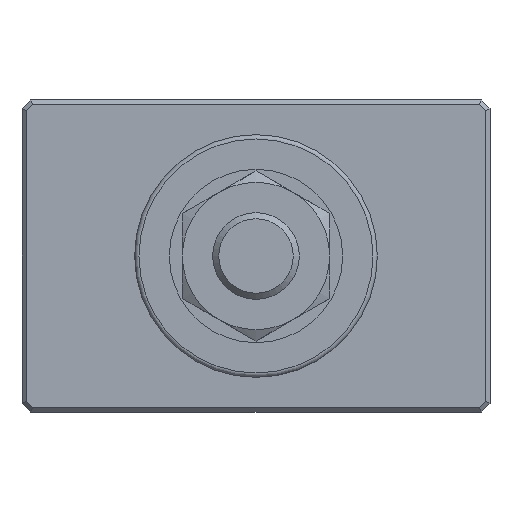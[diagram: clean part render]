
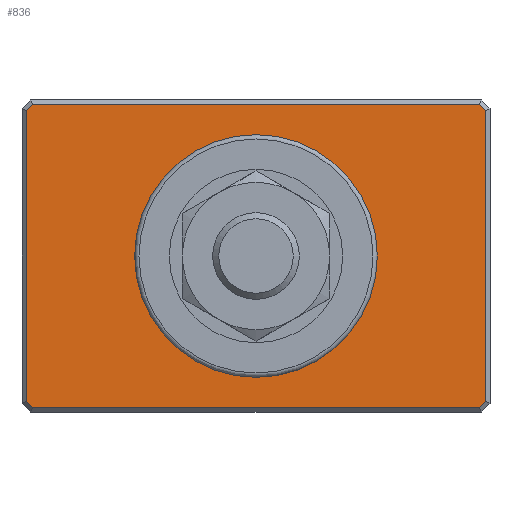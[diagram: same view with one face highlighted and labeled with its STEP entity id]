
A CAD part, front view. The second image highlights one B-rep face of the part: STEP entity #836.
In plain terms, the highlighted planar face has unit normal (0, -1, 0).
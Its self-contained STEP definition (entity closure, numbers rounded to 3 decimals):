
#524=CARTESIAN_POINT('',(25.793,-17.,17.5));
#525=VERTEX_POINT('',#524);
#526=CARTESIAN_POINT('',(26.5,-17.,16.793));
#527=VERTEX_POINT('',#526);
#528=CARTESIAN_POINT('',(25.793,-17.,17.5));
#529=DIRECTION('',(0.707,0.0,-0.707));
#530=VECTOR('',#529,1.);
#531=LINE('',#528,#530);
#532=EDGE_CURVE('',#525,#527,#531,.T.);
#555=CARTESIAN_POINT('',(-25.793,-17.,-17.5));
#556=VERTEX_POINT('',#555);
#557=CARTESIAN_POINT('',(-26.5,-17.,-16.793));
#558=VERTEX_POINT('',#557);
#559=CARTESIAN_POINT('',(-25.793,-17.,-17.5));
#560=DIRECTION('',(-0.707,0.0,0.707));
#561=VECTOR('',#560,1.);
#562=LINE('',#559,#561);
#563=EDGE_CURVE('',#556,#558,#562,.T.);
#595=CARTESIAN_POINT('',(-25.793,-17.,17.5));
#596=VERTEX_POINT('',#595);
#597=CARTESIAN_POINT('',(-25.793,-17.,17.5));
#598=DIRECTION('',(1.0,0.0,0.0));
#599=VECTOR('',#598,51.586);
#600=LINE('',#597,#599);
#601=EDGE_CURVE('',#596,#525,#600,.T.);
#626=CARTESIAN_POINT('',(-26.5,-17.,16.793));
#627=VERTEX_POINT('',#626);
#628=CARTESIAN_POINT('',(-26.5,-17.,-16.793));
#629=DIRECTION('',(0.0,0.0,1.0));
#630=VECTOR('',#629,33.586);
#631=LINE('',#628,#630);
#632=EDGE_CURVE('',#558,#627,#631,.T.);
#648=CARTESIAN_POINT('',(-26.5,-17.,16.793));
#649=DIRECTION('',(0.707,0.0,0.707));
#650=VECTOR('',#649,1.);
#651=LINE('',#648,#650);
#652=EDGE_CURVE('',#627,#596,#651,.T.);
#665=CARTESIAN_POINT('',(25.793,-17.,-17.5));
#666=VERTEX_POINT('',#665);
#667=CARTESIAN_POINT('',(25.793,-17.,-17.5));
#668=DIRECTION('',(-1.0,0.0,0.0));
#669=VECTOR('',#668,51.586);
#670=LINE('',#667,#669);
#671=EDGE_CURVE('',#666,#556,#670,.T.);
#698=CARTESIAN_POINT('',(26.5,-17.,-16.793));
#699=VERTEX_POINT('',#698);
#700=CARTESIAN_POINT('',(26.5,-17.,16.793));
#701=DIRECTION('',(0.0,0.0,-1.0));
#702=VECTOR('',#701,33.586);
#703=LINE('',#700,#702);
#704=EDGE_CURVE('',#527,#699,#703,.T.);
#720=CARTESIAN_POINT('',(26.5,-17.,-16.793));
#721=DIRECTION('',(-0.707,0.0,-0.707));
#722=VECTOR('',#721,1.);
#723=LINE('',#720,#722);
#724=EDGE_CURVE('',#699,#666,#723,.T.);
#810=CARTESIAN_POINT('',(0.0,-17.,-18.));
#811=DIRECTION('',(0.0,-1.0,0.0));
#812=DIRECTION('',(0.0,0.0,-1.0));
#813=AXIS2_PLACEMENT_3D('',#810,#811,#812);
#814=PLANE('',#813);
#815=ORIENTED_EDGE('',*,*,#563,.F.);
#816=ORIENTED_EDGE('',*,*,#671,.F.);
#817=ORIENTED_EDGE('',*,*,#724,.F.);
#818=ORIENTED_EDGE('',*,*,#704,.F.);
#819=ORIENTED_EDGE('',*,*,#532,.F.);
#820=ORIENTED_EDGE('',*,*,#601,.F.);
#821=ORIENTED_EDGE('',*,*,#652,.F.);
#822=ORIENTED_EDGE('',*,*,#632,.F.);
#823=EDGE_LOOP('',(#815,#816,#817,#818,#819,#820,#821,#822));
#824=FACE_OUTER_BOUND('',#823,.T.);
#825=CARTESIAN_POINT('',(0.0,-17.,14.));
#826=VERTEX_POINT('',#825);
#827=CARTESIAN_POINT('',(0.0,-17.,0.0));
#828=DIRECTION('',(0.0,1.0,0.0));
#829=DIRECTION('',(0.0,0.0,1.0));
#830=AXIS2_PLACEMENT_3D('',#827,#828,#829);
#831=CIRCLE('',#830,14.);
#832=EDGE_CURVE('',#826,#826,#831,.T.);
#833=ORIENTED_EDGE('',*,*,#832,.T.);
#834=EDGE_LOOP('',(#833));
#835=FACE_BOUND('',#834,.T.);
#836=ADVANCED_FACE('',(#824,#835),#814,.T.);
